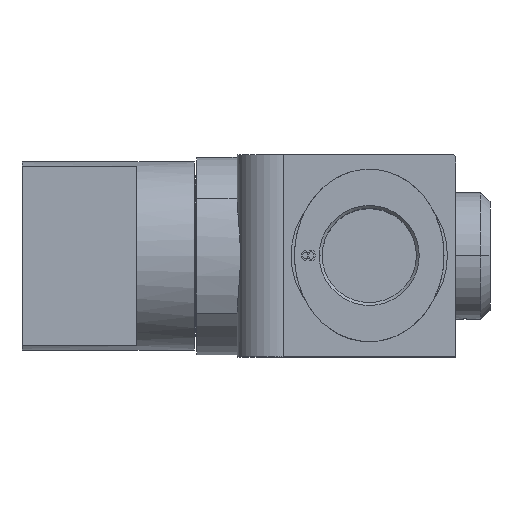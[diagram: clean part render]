
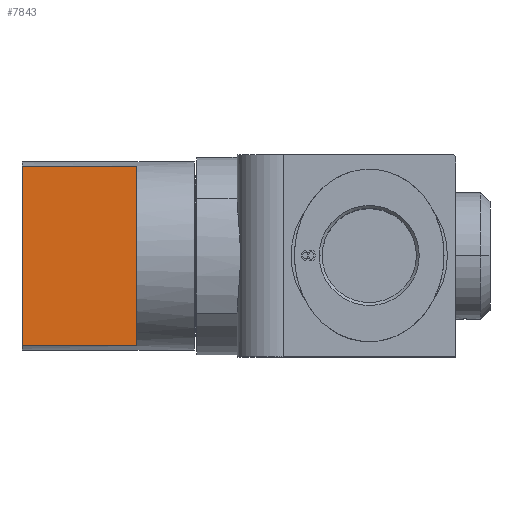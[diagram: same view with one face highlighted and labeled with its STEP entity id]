
A CAD part, top view. The second image highlights one B-rep face of the part: STEP entity #7843.
In plain terms, the highlighted planar face has unit normal (0, 0, 1).
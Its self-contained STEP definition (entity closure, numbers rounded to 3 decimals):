
#902=DIRECTION('',(1.,0.,0.));
#903=VECTOR('',#902,10.);
#904=CARTESIAN_POINT('',(-30.2,-7.81,2.5));
#905=LINE('',#904,#903);
#909=DIRECTION('',(-1.,0.,0.));
#910=VECTOR('',#909,10.);
#911=CARTESIAN_POINT('',(-20.2,7.81,2.5));
#912=LINE('',#911,#910);
#1013=DIRECTION('',(0.,1.,0.));
#1014=VECTOR('',#1013,15.619);
#1015=CARTESIAN_POINT('',(-30.2,-7.81,2.5));
#1016=LINE('',#1015,#1014);
#1036=DIRECTION('',(0.,1.,0.));
#1037=VECTOR('',#1036,15.619);
#1038=CARTESIAN_POINT('',(-20.2,-7.81,2.5));
#1039=LINE('',#1038,#1037);
#6173=CARTESIAN_POINT('',(-30.2,-7.81,2.5));
#6174=VERTEX_POINT('',#6173);
#6175=CARTESIAN_POINT('',(-20.2,-7.81,2.5));
#6176=VERTEX_POINT('',#6175);
#6179=CARTESIAN_POINT('',(-20.2,7.81,2.5));
#6180=VERTEX_POINT('',#6179);
#6181=CARTESIAN_POINT('',(-30.2,7.81,2.5));
#6182=VERTEX_POINT('',#6181);
#7831=CARTESIAN_POINT('',(-20.2,7.81,2.5));
#7832=DIRECTION('',(0.,0.,1.));
#7833=DIRECTION('',(1.,0.,0.));
#7834=AXIS2_PLACEMENT_3D('',#7831,#7832,#7833);
#7835=PLANE('',#7834);
#7836=ORIENTED_EDGE('',*,*,#7757,.T.);
#7837=ORIENTED_EDGE('',*,*,#7682,.F.);
#7839=ORIENTED_EDGE('',*,*,#7838,.F.);
#7840=ORIENTED_EDGE('',*,*,#7676,.F.);
#7841=EDGE_LOOP('',(#7836,#7837,#7839,#7840));
#7842=FACE_OUTER_BOUND('',#7841,.F.);
#7843=ADVANCED_FACE('',(#7842),#7835,.T.);
#7676=EDGE_CURVE('',#6174,#6176,#905,.T.);
#7682=EDGE_CURVE('',#6180,#6182,#912,.T.);
#7757=EDGE_CURVE('',#6174,#6182,#1016,.T.);
#7838=EDGE_CURVE('',#6176,#6180,#1039,.T.);
